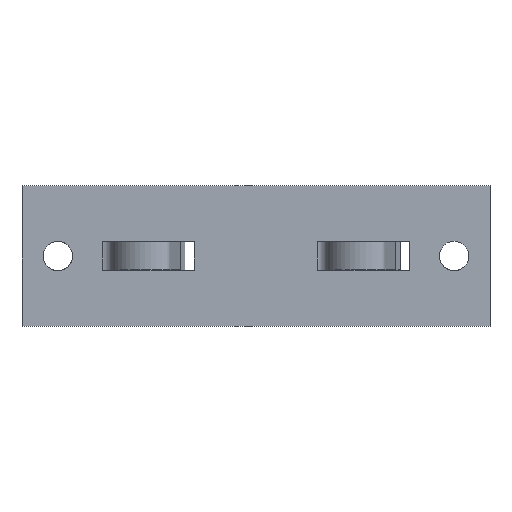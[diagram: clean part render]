
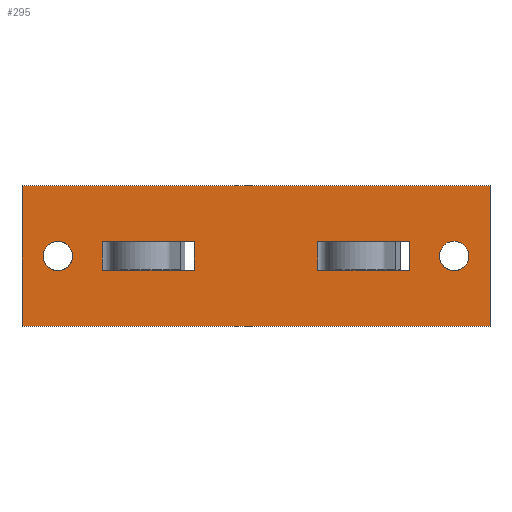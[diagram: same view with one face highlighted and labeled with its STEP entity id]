
A CAD part, top view. The second image highlights one B-rep face of the part: STEP entity #295.
In plain terms, the highlighted planar face has unit normal (0, 0, 1).
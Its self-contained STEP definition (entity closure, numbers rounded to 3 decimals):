
#15=FACE_BOUND($,#352,.T.);
#16=FACE_BOUND($,#353,.T.);
#17=FACE_BOUND($,#354,.T.);
#18=FACE_BOUND($,#355,.T.);
#295=ADVANCED_FACE($,(#321,#15,#16,#17,#18),#757,.T.);
#321=FACE_OUTER_BOUND($,#351,.T.);
#351=EDGE_LOOP($,(#470,#471,#472,#473));
#352=EDGE_LOOP($,(#474));
#353=EDGE_LOOP($,(#475));
#354=EDGE_LOOP($,(#476,#477,#478,#479,#480,#481));
#355=EDGE_LOOP($,(#482,#483,#484,#485,#486,#487));
#470=ORIENTED_EDGE($,*,*,#598,.T.);
#471=ORIENTED_EDGE($,*,*,#601,.T.);
#472=ORIENTED_EDGE($,*,*,#600,.T.);
#473=ORIENTED_EDGE($,*,*,#599,.T.);
#474=ORIENTED_EDGE($,*,*,#602,.F.);
#475=ORIENTED_EDGE($,*,*,#603,.T.);
#476=ORIENTED_EDGE($,*,*,#607,.F.);
#477=ORIENTED_EDGE($,*,*,#615,.F.);
#478=ORIENTED_EDGE($,*,*,#606,.F.);
#479=ORIENTED_EDGE($,*,*,#605,.F.);
#480=ORIENTED_EDGE($,*,*,#614,.F.);
#481=ORIENTED_EDGE($,*,*,#604,.T.);
#482=ORIENTED_EDGE($,*,*,#608,.T.);
#483=ORIENTED_EDGE($,*,*,#611,.T.);
#484=ORIENTED_EDGE($,*,*,#613,.T.);
#485=ORIENTED_EDGE($,*,*,#610,.F.);
#486=ORIENTED_EDGE($,*,*,#609,.F.);
#487=ORIENTED_EDGE($,*,*,#612,.T.);
#598=EDGE_CURVE($,#722,#725,#870,.T.);
#599=EDGE_CURVE($,#723,#722,#871,.T.);
#600=EDGE_CURVE($,#724,#723,#872,.T.);
#601=EDGE_CURVE($,#725,#724,#873,.T.);
#602=EDGE_CURVE($,#726,#726,#784,.T.);
#603=EDGE_CURVE($,#727,#727,#785,.T.);
#604=EDGE_CURVE($,#739,#728,#874,.T.);
#605=EDGE_CURVE($,#729,#730,#875,.T.);
#606=EDGE_CURVE($,#730,#738,#876,.T.);
#607=EDGE_CURVE($,#731,#728,#877,.T.);
#608=EDGE_CURVE($,#732,#733,#878,.T.);
#609=EDGE_CURVE($,#736,#734,#879,.T.);
#610=EDGE_CURVE($,#734,#735,#880,.T.);
#611=EDGE_CURVE($,#733,#737,#881,.T.);
#612=EDGE_CURVE($,#736,#732,#882,.T.);
#613=EDGE_CURVE($,#737,#735,#883,.T.);
#614=EDGE_CURVE($,#739,#729,#884,.T.);
#615=EDGE_CURVE($,#738,#731,#885,.T.);
#722=VERTEX_POINT($,#1708);
#723=VERTEX_POINT($,#1709);
#724=VERTEX_POINT($,#1710);
#725=VERTEX_POINT($,#1711);
#726=VERTEX_POINT($,#1712);
#727=VERTEX_POINT($,#1713);
#728=VERTEX_POINT($,#1714);
#729=VERTEX_POINT($,#1715);
#730=VERTEX_POINT($,#1716);
#731=VERTEX_POINT($,#1717);
#732=VERTEX_POINT($,#1718);
#733=VERTEX_POINT($,#1719);
#734=VERTEX_POINT($,#1720);
#735=VERTEX_POINT($,#1721);
#736=VERTEX_POINT($,#1722);
#737=VERTEX_POINT($,#1723);
#738=VERTEX_POINT($,#1724);
#739=VERTEX_POINT($,#1725);
#757=PLANE($,#923);
#784=(
BOUNDED_CURVE()
B_SPLINE_CURVE(2,(#1665,#1666,#1667,#1668,#1669,#1670,#1671,#1672,#1673),
.UNSPECIFIED.,.T.,.F.)
B_SPLINE_CURVE_WITH_KNOTS((3,2,2,2,3),(0.,4.948,9.896,
14.844,19.792),.UNSPECIFIED.)
CURVE()
GEOMETRIC_REPRESENTATION_ITEM()
RATIONAL_B_SPLINE_CURVE((1.,0.707,1.,0.707,1.,0.707,
1.,0.707,1.))
REPRESENTATION_ITEM($)
);
#785=(
BOUNDED_CURVE()
B_SPLINE_CURVE(2,(#1674,#1675,#1676,#1677,#1678,#1679,#1680,#1681,#1682),
.UNSPECIFIED.,.T.,.F.)
B_SPLINE_CURVE_WITH_KNOTS((3,2,2,2,3),(0.,4.948,9.896,
14.844,19.792),.UNSPECIFIED.)
CURVE()
GEOMETRIC_REPRESENTATION_ITEM()
RATIONAL_B_SPLINE_CURVE((1.,0.707,1.,0.707,1.,0.707,
1.,0.707,1.))
REPRESENTATION_ITEM($)
);
#870=B_SPLINE_CURVE_WITH_KNOTS($,1,(#1657,#1658),.UNSPECIFIED.,.F.,.F.,(2,
2),(0.,100.),.UNSPECIFIED.);
#871=B_SPLINE_CURVE_WITH_KNOTS($,1,(#1659,#1660),.UNSPECIFIED.,.F.,.F.,(2,
2),(230.,260.),.UNSPECIFIED.);
#872=B_SPLINE_CURVE_WITH_KNOTS($,1,(#1661,#1662),.UNSPECIFIED.,.F.,.F.,(2,
2),(130.,230.),.UNSPECIFIED.);
#873=B_SPLINE_CURVE_WITH_KNOTS($,1,(#1663,#1664),.UNSPECIFIED.,.F.,.F.,(2,
2),(100.,130.),.UNSPECIFIED.);
#874=B_SPLINE_CURVE_WITH_KNOTS($,1,(#1683,#1684),.UNSPECIFIED.,.F.,.F.,(2,
2),(-3.464,0.),.UNSPECIFIED.);
#875=B_SPLINE_CURVE_WITH_KNOTS($,1,(#1685,#1686),.UNSPECIFIED.,.F.,.F.,(2,
2),(0.,6.),.UNSPECIFIED.);
#876=B_SPLINE_CURVE_WITH_KNOTS($,1,(#1687,#1688),.UNSPECIFIED.,.F.,.F.,(2,
2),(0.,13.178),.UNSPECIFIED.);
#877=B_SPLINE_CURVE_WITH_KNOTS($,1,(#1689,#1690),.UNSPECIFIED.,.F.,.F.,(2,
2),(16.,22.),.UNSPECIFIED.);
#878=B_SPLINE_CURVE_WITH_KNOTS($,1,(#1691,#1692),.UNSPECIFIED.,.F.,.F.,(2,
2),(16.,22.),.UNSPECIFIED.);
#879=B_SPLINE_CURVE_WITH_KNOTS($,1,(#1693,#1694),.UNSPECIFIED.,.F.,.F.,(2,
2),(-2.822,0.),.UNSPECIFIED.);
#880=B_SPLINE_CURVE_WITH_KNOTS($,1,(#1695,#1696),.UNSPECIFIED.,.F.,.F.,(2,
2),(-6.,0.),.UNSPECIFIED.);
#881=B_SPLINE_CURVE_WITH_KNOTS($,1,(#1697,#1698),.UNSPECIFIED.,.F.,.F.,(2,
2),(0.,16.173),.UNSPECIFIED.);
#882=B_SPLINE_CURVE_WITH_KNOTS($,1,(#1699,#1700),.UNSPECIFIED.,.F.,.F.,(2,
2),(2.822,16.),.UNSPECIFIED.);
#883=B_SPLINE_CURVE_WITH_KNOTS($,1,(#1701,#1702),.UNSPECIFIED.,.F.,.F.,(2,
2),(16.173,19.637),.UNSPECIFIED.);
#884=B_SPLINE_CURVE_WITH_KNOTS($,1,(#1703,#1704),.UNSPECIFIED.,.F.,.F.,(2,
2),(3.464,19.637),.UNSPECIFIED.);
#885=B_SPLINE_CURVE_WITH_KNOTS($,1,(#1705,#1706),.UNSPECIFIED.,.F.,.F.,(2,
2),(13.178,16.),.UNSPECIFIED.);
#923=AXIS2_PLACEMENT_3D($,#1707,#944,$);
#944=DIRECTION($,(0.,0.,1.));
#1657=CARTESIAN_POINT($,(-50.,-15.,0.));
#1658=CARTESIAN_POINT($,(50.,-15.,0.));
#1659=CARTESIAN_POINT($,(-50.,15.,0.));
#1660=CARTESIAN_POINT($,(-50.,-15.,0.));
#1661=CARTESIAN_POINT($,(50.,15.,0.));
#1662=CARTESIAN_POINT($,(-50.,15.,0.));
#1663=CARTESIAN_POINT($,(50.,-15.,0.));
#1664=CARTESIAN_POINT($,(50.,15.,0.));
#1665=CARTESIAN_POINT($,(-39.2,0.,0.));
#1666=CARTESIAN_POINT($,(-39.2,3.15,0.));
#1667=CARTESIAN_POINT($,(-42.35,3.15,0.));
#1668=CARTESIAN_POINT($,(-45.5,3.15,0.));
#1669=CARTESIAN_POINT($,(-45.5,0.,0.));
#1670=CARTESIAN_POINT($,(-45.5,-3.15,0.));
#1671=CARTESIAN_POINT($,(-42.35,-3.15,0.));
#1672=CARTESIAN_POINT($,(-39.2,-3.15,0.));
#1673=CARTESIAN_POINT($,(-39.2,0.,0.));
#1674=CARTESIAN_POINT($,(39.2,0.,0.));
#1675=CARTESIAN_POINT($,(39.2,3.15,0.));
#1676=CARTESIAN_POINT($,(42.35,3.15,0.));
#1677=CARTESIAN_POINT($,(45.5,3.15,0.));
#1678=CARTESIAN_POINT($,(45.5,0.,0.));
#1679=CARTESIAN_POINT($,(45.5,-3.15,0.));
#1680=CARTESIAN_POINT($,(42.35,-3.15,0.));
#1681=CARTESIAN_POINT($,(39.2,-3.15,0.));
#1682=CARTESIAN_POINT($,(39.2,0.,0.));
#1683=CARTESIAN_POINT($,(16.627,-3.,0.));
#1684=CARTESIAN_POINT($,(13.163,-3.,0.));
#1685=CARTESIAN_POINT($,(32.8,-3.,0.));
#1686=CARTESIAN_POINT($,(32.8,3.,0.));
#1687=CARTESIAN_POINT($,(32.8,3.,0.));
#1688=CARTESIAN_POINT($,(16.627,3.,0.));
#1689=CARTESIAN_POINT($,(13.163,3.,0.));
#1690=CARTESIAN_POINT($,(13.163,-3.,0.));
#1691=CARTESIAN_POINT($,(-13.163,3.,0.));
#1692=CARTESIAN_POINT($,(-13.163,-3.,0.));
#1693=CARTESIAN_POINT($,(-29.336,3.,0.));
#1694=CARTESIAN_POINT($,(-32.8,3.,0.));
#1695=CARTESIAN_POINT($,(-32.8,3.,0.));
#1696=CARTESIAN_POINT($,(-32.8,-3.,0.));
#1697=CARTESIAN_POINT($,(-13.163,-3.,0.));
#1698=CARTESIAN_POINT($,(-29.336,-3.,0.));
#1699=CARTESIAN_POINT($,(-29.336,3.,0.));
#1700=CARTESIAN_POINT($,(-13.163,3.,0.));
#1701=CARTESIAN_POINT($,(-29.336,-3.,0.));
#1702=CARTESIAN_POINT($,(-32.8,-3.,0.));
#1703=CARTESIAN_POINT($,(16.627,-3.,0.));
#1704=CARTESIAN_POINT($,(32.8,-3.,0.));
#1705=CARTESIAN_POINT($,(16.627,3.,0.));
#1706=CARTESIAN_POINT($,(13.163,3.,0.));
#1707=CARTESIAN_POINT($,(-50.,-15.,0.));
#1708=CARTESIAN_POINT($,(-50.,-15.,0.));
#1709=CARTESIAN_POINT($,(-50.,15.,0.));
#1710=CARTESIAN_POINT($,(50.,15.,0.));
#1711=CARTESIAN_POINT($,(50.,-15.,0.));
#1712=CARTESIAN_POINT($,(-39.2,0.,0.));
#1713=CARTESIAN_POINT($,(39.2,0.,0.));
#1714=CARTESIAN_POINT($,(13.163,-3.,0.));
#1715=CARTESIAN_POINT($,(32.8,-3.,0.));
#1716=CARTESIAN_POINT($,(32.8,3.,0.));
#1717=CARTESIAN_POINT($,(13.163,3.,0.));
#1718=CARTESIAN_POINT($,(-13.163,3.,0.));
#1719=CARTESIAN_POINT($,(-13.163,-3.,0.));
#1720=CARTESIAN_POINT($,(-32.8,3.,0.));
#1721=CARTESIAN_POINT($,(-32.8,-3.,0.));
#1722=CARTESIAN_POINT($,(-29.336,3.,0.));
#1723=CARTESIAN_POINT($,(-29.336,-3.,0.));
#1724=CARTESIAN_POINT($,(16.627,3.,0.));
#1725=CARTESIAN_POINT($,(16.627,-3.,0.));
